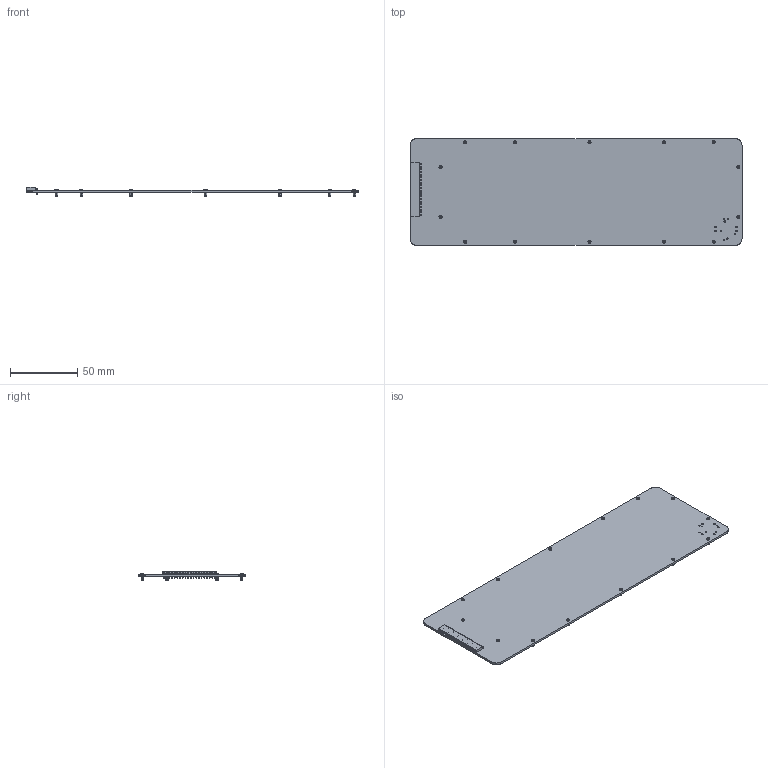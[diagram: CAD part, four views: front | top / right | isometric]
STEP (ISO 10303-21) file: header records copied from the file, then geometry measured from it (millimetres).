
FILE_DESCRIPTION(('KiCad electronic assembly'),'2;1');
FILE_NAME('ground-control-40_MAIN_PLATE_v1.step','2024-01-29T09:23:32',( 'Pcbnew'),('Kicad'),'Open CASCADE STEP processor 7.7', 'KiCad to STEP converter','Unknown');
FILE_SCHEMA(('AUTOMOTIVE_DESIGN { 1 0 10303 214 1 1 1 1 }'));
Length unit declared in the file: millimetre
Products named in the file (6): ground-control-40_MAIN_PLATE_v1 1; h3183-05; COMPOUND; PinSocket_1x20_P2.00mm_Horizontal; SOLID; ground-control-40_MAIN_PLATE_v1 PCB
Assembly tree (18 placements, depth 3):
  ground-control-40_MAIN_PLATE_v1 1
    h3183-05  x14
      COMPOUND
    PinSocket_1x20_P2.00mm_Horizontal
      SOLID
    ground-control-40_MAIN_PLATE_v1 PCB
Bounding box: 246.75 x 79.15 x 6.75 mm (x, y, z)
Volume: 31679.9 mm3; surface area: 42474.6 mm2
Topology: 30 solids, 30 shells, 1659 faces, 4173 edges, 2634 vertices
Faces by surface type: plane 958, bspline 336, cylinder 225, cone 112, torus 28
Full cylindrical faces by diameter (mm): 0.8 x20, 1 x11, 2.1 x14
Entity records: 66512 total; most frequent: CARTESIAN_POINT 13649, DIRECTION 8772, LINE 6528, VECTOR 6528, ORIENTED_EDGE 4728, PCURVE 4728, DEFINITIONAL_REPRESENTATION 4728, EDGE_CURVE 2364
